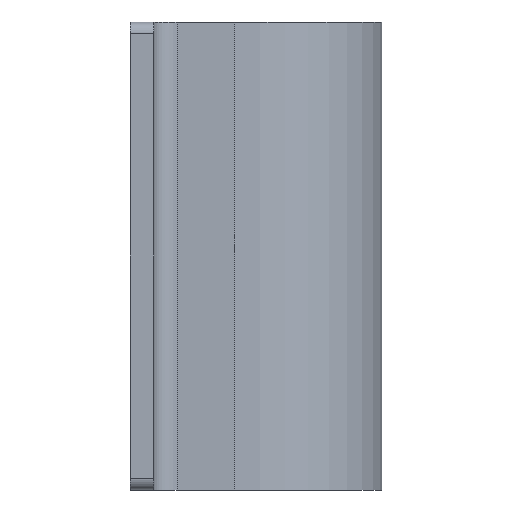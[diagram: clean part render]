
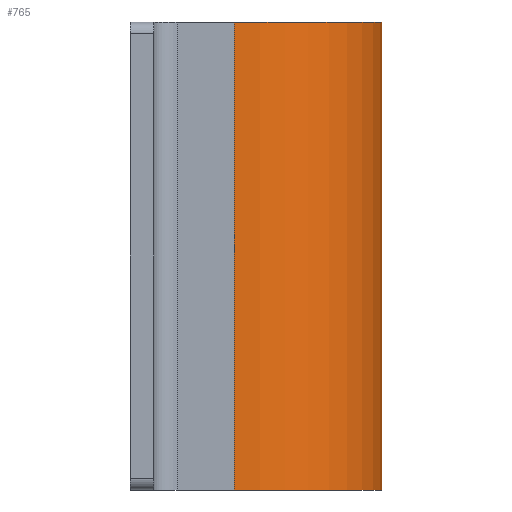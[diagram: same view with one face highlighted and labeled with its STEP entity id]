
A CAD part, left-side view. The second image highlights one B-rep face of the part: STEP entity #765.
In plain terms, the highlighted cylindrical face has radius 25.25 mm (diameter 50.5 mm), a partial arc.
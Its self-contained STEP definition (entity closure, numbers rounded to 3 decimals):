
#301=CARTESIAN_POINT('',(-25.25,-21.2,80.0));
#302=VERTEX_POINT('',#301);
#309=CARTESIAN_POINT('',(25.25,-21.2,80.0));
#310=VERTEX_POINT('',#309);
#311=CARTESIAN_POINT('',(0.,-21.2,80.0));
#312=DIRECTION('',(0.0,0.0,-1.0));
#313=DIRECTION('',(-1.0,0.0,0.0));
#314=AXIS2_PLACEMENT_3D('',#311,#312,#313);
#315=CIRCLE('',#314,25.25);
#316=EDGE_CURVE('',#310,#302,#315,.T.);
#723=CARTESIAN_POINT('',(25.25,-21.2,0.0));
#724=VERTEX_POINT('',#723);
#725=CARTESIAN_POINT('',(25.25,-21.2,0.0));
#726=DIRECTION('',(0.0,0.0,1.0));
#727=VECTOR('',#726,80.0);
#728=LINE('',#725,#727);
#729=EDGE_CURVE('',#724,#310,#728,.T.);
#741=CARTESIAN_POINT('',(0.,-21.2,0.0));
#742=DIRECTION('',(0.0,0.0,1.0));
#743=DIRECTION('',(-1.0,0.0,0.0));
#744=AXIS2_PLACEMENT_3D('',#741,#742,#743);
#745=CYLINDRICAL_SURFACE('',#744,25.25);
#746=ORIENTED_EDGE('',*,*,#316,.T.);
#747=CARTESIAN_POINT('',(-25.25,-21.2,0.0));
#748=VERTEX_POINT('',#747);
#749=CARTESIAN_POINT('',(-25.25,-21.2,0.0));
#750=DIRECTION('',(0.0,0.0,1.0));
#751=VECTOR('',#750,80.0);
#752=LINE('',#749,#751);
#753=EDGE_CURVE('',#748,#302,#752,.T.);
#754=ORIENTED_EDGE('',*,*,#753,.F.);
#755=CARTESIAN_POINT('',(0.,-21.2,0.0));
#756=DIRECTION('',(0.0,0.0,1.0));
#757=DIRECTION('',(-1.0,0.0,0.0));
#758=AXIS2_PLACEMENT_3D('',#755,#756,#757);
#759=CIRCLE('',#758,25.25);
#760=EDGE_CURVE('',#748,#724,#759,.T.);
#761=ORIENTED_EDGE('',*,*,#760,.T.);
#762=ORIENTED_EDGE('',*,*,#729,.T.);
#763=EDGE_LOOP('',(#746,#754,#761,#762));
#764=FACE_OUTER_BOUND('',#763,.T.);
#765=ADVANCED_FACE('',(#764),#745,.T.);
